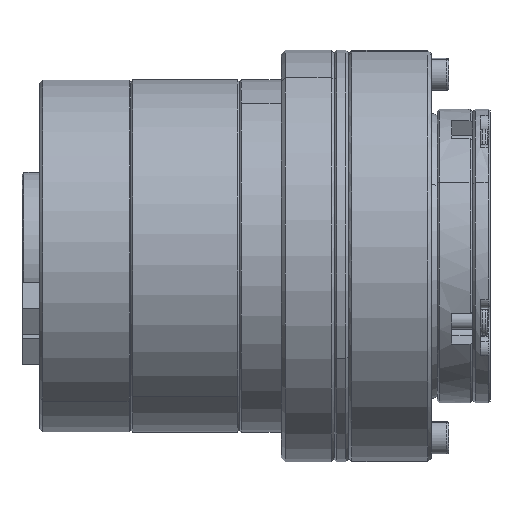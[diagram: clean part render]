
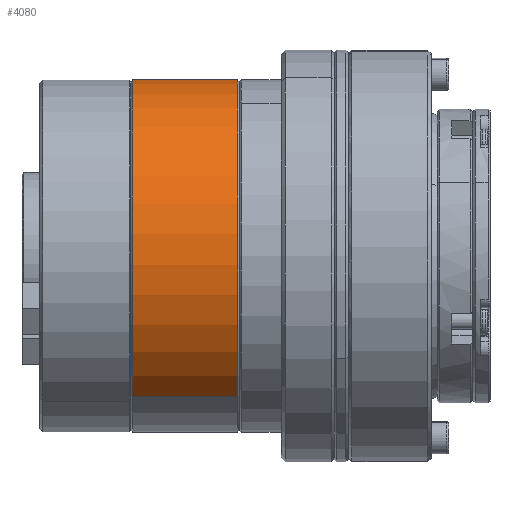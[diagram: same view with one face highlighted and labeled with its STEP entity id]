
A CAD part, top view. The second image highlights one B-rep face of the part: STEP entity #4080.
In plain terms, the highlighted cylindrical face has radius 30 mm (diameter 60 mm), a partial arc.
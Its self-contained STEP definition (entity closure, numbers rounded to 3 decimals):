
#95 = DIRECTION ( 'NONE',  ( -1., 0., 0. ) ) ;
#621 = CARTESIAN_POINT ( 'NONE',  ( -51.6, -23.959, 18.054 ) ) ;
#986 = VERTEX_POINT ( 'NONE', #3743 ) ;
#1955 = ORIENTED_EDGE ( 'NONE', *, *, #22045, .T. ) ;
#3743 = CARTESIAN_POINT ( 'NONE',  ( -50.8, 23.959, -18.054 ) ) ;
#3982 = VECTOR ( 'NONE', #8212, 1000. ) ;
#4080 = ADVANCED_FACE ( 'NONE', ( #15871 ), #17365, .T. ) ;
#7138 = DIRECTION ( 'NONE',  ( 0., 0.799, -0.602 ) ) ;
#7952 = EDGE_LOOP ( 'NONE', ( #20247, #28623, #1955, #10109 ) ) ;
#8212 = DIRECTION ( 'NONE',  ( 1., 0., 0. ) ) ;
#8543 = AXIS2_PLACEMENT_3D ( 'NONE', #25678, #12387, #10288 ) ;
#10109 = ORIENTED_EDGE ( 'NONE', *, *, #14380, .T. ) ;
#10288 = DIRECTION ( 'NONE',  ( 0., -0.799, 0.602 ) ) ;
#11819 = CARTESIAN_POINT ( 'NONE',  ( -50.8, 0., 0. ) ) ;
#11839 = EDGE_CURVE ( 'NONE', #986, #26156, #21828, .T. ) ;
#12387 = DIRECTION ( 'NONE',  ( 1., 0., 0. ) ) ;
#12847 = LINE ( 'NONE', #621, #21164 ) ;
#13914 = VERTEX_POINT ( 'NONE', #28166 ) ;
#14069 = DIRECTION ( 'NONE',  ( 1., 0., 0. ) ) ;
#14380 = EDGE_CURVE ( 'NONE', #18738, #13914, #21347, .T. ) ;
#15652 = AXIS2_PLACEMENT_3D ( 'NONE', #11819, #14069, #7138 ) ;
#15871 = FACE_OUTER_BOUND ( 'NONE', #7952, .T. ) ;
#17365 = CYLINDRICAL_SURFACE ( 'NONE', #8543, 30. ) ;
#17878 = CARTESIAN_POINT ( 'NONE',  ( -51.6, 23.959, -18.054 ) ) ;
#17895 = EDGE_CURVE ( 'NONE', #986, #13914, #30099, .T. ) ;
#18712 = CARTESIAN_POINT ( 'NONE',  ( -32.9, -23.959, 18.054 ) ) ;
#18738 = VERTEX_POINT ( 'NONE', #18712 ) ;
#20247 = ORIENTED_EDGE ( 'NONE', *, *, #17895, .F. ) ;
#20710 = DIRECTION ( 'NONE',  ( 1., 0., 0. ) ) ;
#21164 = VECTOR ( 'NONE', #20710, 1000. ) ;
#21347 = CIRCLE ( 'NONE', #25462, 30. ) ;
#21828 = CIRCLE ( 'NONE', #15652, 30. ) ;
#22045 = EDGE_CURVE ( 'NONE', #26156, #18738, #12847, .T. ) ;
#24695 = DIRECTION ( 'NONE',  ( 0., 0.799, -0.602 ) ) ;
#25462 = AXIS2_PLACEMENT_3D ( 'NONE', #27254, #95, #24695 ) ;
#25678 = CARTESIAN_POINT ( 'NONE',  ( -51.6, 0., 0. ) ) ;
#26156 = VERTEX_POINT ( 'NONE', #30166 ) ;
#27254 = CARTESIAN_POINT ( 'NONE',  ( -32.9, 0., 0. ) ) ;
#28166 = CARTESIAN_POINT ( 'NONE',  ( -32.9, 23.959, -18.054 ) ) ;
#28623 = ORIENTED_EDGE ( 'NONE', *, *, #11839, .T. ) ;
#30099 = LINE ( 'NONE', #17878, #3982 ) ;
#30166 = CARTESIAN_POINT ( 'NONE',  ( -50.8, -23.959, 18.054 ) ) ;
